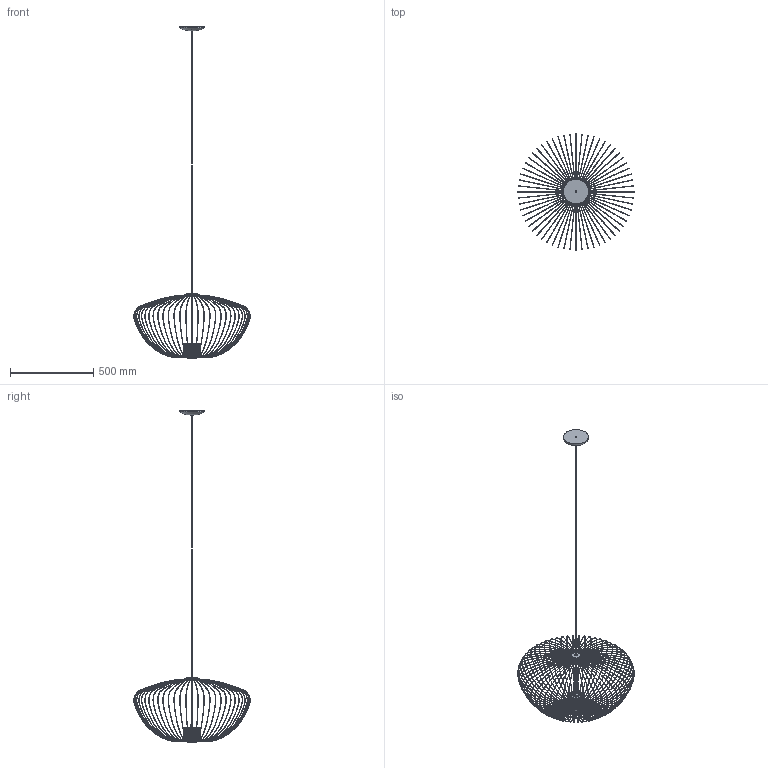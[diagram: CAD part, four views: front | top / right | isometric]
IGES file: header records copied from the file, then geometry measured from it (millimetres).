
Start section: SolidWorks IGES file using analytic representation for surfaces
Global section: file name: Z:\PRODUKT\Modele_3D_WWW\PUMPKIN\Pumpkin L\PUMPKIN-L-11251-11252\LPumpkin L 44.IGS; native system: SolidWorks 2023; preprocessor: SolidWorks 2023; author: anna.bielnik; date: 240207.134951; units: millimetre
Bounding box: 701.5 x 701.5 x 1999.99 mm (x, y, z)
Surface area: 461154.6 mm2 (no closed solid volume)
Topology: 0 solids, 0 shells, 2825 faces, 26748 edges, 26748 vertices
Faces by surface type: bspline 2783, revolution 42
